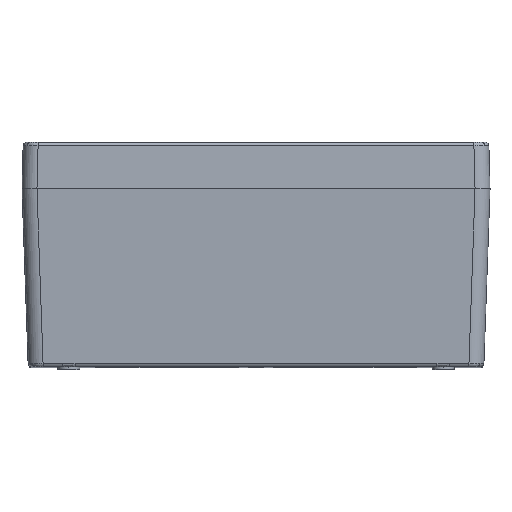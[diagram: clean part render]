
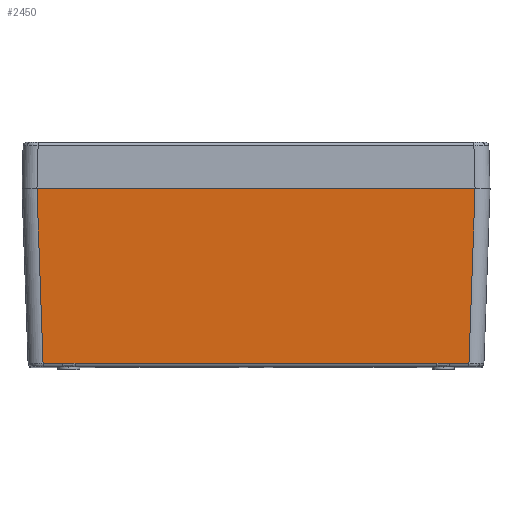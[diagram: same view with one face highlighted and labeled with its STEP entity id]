
A CAD part, top view. The second image highlights one B-rep face of the part: STEP entity #2450.
In plain terms, the highlighted planar face has unit normal (0, -0.035, 0.999).
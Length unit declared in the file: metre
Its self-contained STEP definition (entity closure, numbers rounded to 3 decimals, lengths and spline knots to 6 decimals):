
#311 = ORIENTED_EDGE ( 'NONE', *, *, #2430, .T. ) ;
#387 = CARTESIAN_POINT ( 'NONE',  ( -0.125, -0.09307, 0.12425 ) ) ;
#494 = CARTESIAN_POINT ( 'NONE',  ( 0.09889, -0.093302, 0.124242 ) ) ;
#496 = ORIENTED_EDGE ( 'NONE', *, *, #16359, .T. ) ;
#881 = CARTESIAN_POINT ( 'NONE',  ( -0.096673, -0.09307, 0.12425 ) ) ;
#978 = ORIENTED_EDGE ( 'NONE', *, *, #14404, .T. ) ;
#1494 = CARTESIAN_POINT ( 'NONE',  ( 0.096673, -0.09307, 0.12425 ) ) ;
#1507 = CARTESIAN_POINT ( 'NONE',  ( -0.125, -0.09307, 0.12425 ) ) ;
#1570 = CARTESIAN_POINT ( 'NONE',  ( -0.125, 0., 0.1275 ) ) ;
#1880 = CARTESIAN_POINT ( 'NONE',  ( 0.09972, -0.093373, 0.124239 ) ) ;
#2209 = CARTESIAN_POINT ( 'NONE',  ( -0.102217, -0.093147, 0.124247 ) ) ;
#2216 = DIRECTION ( 'NONE',  ( 0.035, 0.999, 0.035 ) ) ;
#2395 = CARTESIAN_POINT ( 'NONE',  ( -0.113755, -0.09307, 0.12425 ) ) ;
#2430 = EDGE_CURVE ( 'NONE', #4702, #15711, #2875, .T. ) ;
#2450 = ADVANCED_FACE ( 'NONE', ( #6085 ), #15189, .T. ) ;
#2875 = LINE ( 'NONE', #1507, #16071 ) ;
#3058 = EDGE_CURVE ( 'NONE', #6464, #4796, #9708, .T. ) ;
#3106 = EDGE_CURVE ( 'NONE', #6182, #4796, #16491, .T. ) ;
#3245 = CARTESIAN_POINT ( 'NONE',  ( 0.100551, -0.093357, 0.12424 ) ) ;
#3457 = CARTESIAN_POINT ( 'NONE',  ( -0.103327, -0.09307, 0.12425 ) ) ;
#3574 = CARTESIAN_POINT ( 'NONE',  ( -0.10111, -0.093302, 0.124242 ) ) ;
#3633 = VECTOR ( 'NONE', #15921, 1. ) ;
#3881 = VECTOR ( 'NONE', #13721, 1. ) ;
#4357 = EDGE_CURVE ( 'NONE', #6182, #4702, #11157, .T. ) ;
#4497 = LINE ( 'NONE', #11835, #3633 ) ;
#4615 = CARTESIAN_POINT ( 'NONE',  ( 0.101382, -0.093264, 0.124243 ) ) ;
#4702 = VERTEX_POINT ( 'NONE', #2395 ) ;
#4796 = VERTEX_POINT ( 'NONE', #14945 ) ;
#4943 = CARTESIAN_POINT ( 'NONE',  ( -0.10028, -0.093373, 0.124239 ) ) ;
#5021 = CARTESIAN_POINT ( 'NONE',  ( -0.125, 0., 0.1275 ) ) ;
#5800 = CARTESIAN_POINT ( 'NONE',  ( -0.096673, -0.09307, 0.12425 ) ) ;
#6012 = CARTESIAN_POINT ( 'NONE',  ( 0.102767, -0.09307, 0.12425 ) ) ;
#6085 = FACE_OUTER_BOUND ( 'NONE', #12398, .T. ) ;
#6182 = VERTEX_POINT ( 'NONE', #7645 ) ;
#6347 = CARTESIAN_POINT ( 'NONE',  ( -0.099449, -0.093357, 0.12424 ) ) ;
#6464 = VERTEX_POINT ( 'NONE', #8360 ) ;
#6504 = VECTOR ( 'NONE', #2216, 1. ) ;
#6950 = EDGE_CURVE ( 'NONE', #14768, #6464, #13873, .T. ) ;
#6971 = ORIENTED_EDGE ( 'NONE', *, *, #4357, .T. ) ;
#7003 = ORIENTED_EDGE ( 'NONE', *, *, #11595, .T. ) ;
#7342 = CARTESIAN_POINT ( 'NONE',  ( 0.097231, -0.09307, 0.12425 ) ) ;
#7499 = ORIENTED_EDGE ( 'NONE', *, *, #3058, .T. ) ;
#7645 = CARTESIAN_POINT ( 'NONE',  ( -0.117005, 0., 0.1275 ) ) ;
#7716 = CARTESIAN_POINT ( 'NONE',  ( -0.098618, -0.093264, 0.124243 ) ) ;
#8360 = CARTESIAN_POINT ( 'NONE',  ( 0.113755, -0.09307, 0.12425 ) ) ;
#8443 = DIRECTION ( 'NONE',  ( 0., -0.999, -0.035 ) ) ;
#8693 = CARTESIAN_POINT ( 'NONE',  ( 0.098613, -0.093263, 0.124243 ) ) ;
#9026 = CARTESIAN_POINT ( 'NONE',  ( -0.102769, -0.09307, 0.12425 ) ) ;
#9087 = CARTESIAN_POINT ( 'NONE',  ( -0.097233, -0.09307, 0.12425 ) ) ;
#9708 = LINE ( 'NONE', #11771, #6504 ) ;
#9958 = DIRECTION ( 'NONE',  ( 1., 0., 0. ) ) ;
#10070 = CARTESIAN_POINT ( 'NONE',  ( 0.099443, -0.093357, 0.12424 ) ) ;
#10326 = B_SPLINE_CURVE_WITH_KNOTS ( 'NONE', 3,
 ( #16819, #7342, #12731, #8693, #494, #10070, #1880, #11424, #3245, #12788, #4615, #14132, #6012, #15502 ),
 .UNSPECIFIED., .F., .F.,
 ( 4, 2, 2, 2, 2, 2, 4 ),
 ( 0., 0.001669, 0.002504, 0.003338, 0.004173, 0.005008, 0.006677 ),
 .UNSPECIFIED. ) ;
#10351 = ORIENTED_EDGE ( 'NONE', *, *, #3106, .F. ) ;
#10980 = CARTESIAN_POINT ( 'NONE',  ( -0.103327, -0.09307, 0.12425 ) ) ;
#11072 = CARTESIAN_POINT ( 'NONE',  ( -0.117015, 0.000279, 0.12751 ) ) ;
#11121 = B_SPLINE_CURVE_WITH_KNOTS ( 'NONE', 3,
 ( #3457, #9026, #2209, #11758, #3574, #13118, #4943, #14460, #6347, #15842, #7716, #17197, #9087, #881 ),
 .UNSPECIFIED., .F., .F.,
 ( 4, 2, 2, 2, 2, 2, 4 ),
 ( 0., 0.001669, 0.002504, 0.003338, 0.004173, 0.005008, 0.006677 ),
 .UNSPECIFIED. ) ;
#11157 = LINE ( 'NONE', #11072, #3881 ) ;
#11424 = CARTESIAN_POINT ( 'NONE',  ( 0.100274, -0.093374, 0.124239 ) ) ;
#11595 = EDGE_CURVE ( 'NONE', #16575, #14768, #10326, .T. ) ;
#11758 = CARTESIAN_POINT ( 'NONE',  ( -0.101387, -0.093263, 0.124243 ) ) ;
#11771 = CARTESIAN_POINT ( 'NONE',  ( 0.11671, -0.00843, 0.127206 ) ) ;
#11835 = CARTESIAN_POINT ( 'NONE',  ( -0.125, -0.09307, 0.12425 ) ) ;
#12398 = EDGE_LOOP ( 'NONE', ( #6971, #311, #496, #978, #7003, #14045, #7499, #10351 ) ) ;
#12429 = DIRECTION ( 'NONE',  ( 1., 0., 0. ) ) ;
#12465 = VECTOR ( 'NONE', #14534, 1. ) ;
#12731 = CARTESIAN_POINT ( 'NONE',  ( 0.097783, -0.093147, 0.124247 ) ) ;
#12788 = CARTESIAN_POINT ( 'NONE',  ( 0.101105, -0.093302, 0.124242 ) ) ;
#13118 = CARTESIAN_POINT ( 'NONE',  ( -0.100557, -0.093357, 0.12424 ) ) ;
#13323 = AXIS2_PLACEMENT_3D ( 'NONE', #1570, #16574, #8443 ) ;
#13721 = DIRECTION ( 'NONE',  ( 0.035, -0.999, -0.035 ) ) ;
#13873 = LINE ( 'NONE', #387, #17464 ) ;
#14045 = ORIENTED_EDGE ( 'NONE', *, *, #6950, .T. ) ;
#14132 = CARTESIAN_POINT ( 'NONE',  ( 0.102213, -0.093147, 0.124247 ) ) ;
#14404 = EDGE_CURVE ( 'NONE', #16695, #16575, #4497, .T. ) ;
#14460 = CARTESIAN_POINT ( 'NONE',  ( -0.099726, -0.093374, 0.124239 ) ) ;
#14534 = DIRECTION ( 'NONE',  ( 1., 0., 0. ) ) ;
#14768 = VERTEX_POINT ( 'NONE', #15790 ) ;
#14945 = CARTESIAN_POINT ( 'NONE',  ( 0.117005, 0., 0.1275 ) ) ;
#15189 = PLANE ( 'NONE',  #13323 ) ;
#15502 = CARTESIAN_POINT ( 'NONE',  ( 0.103327, -0.09307, 0.12425 ) ) ;
#15711 = VERTEX_POINT ( 'NONE', #10980 ) ;
#15790 = CARTESIAN_POINT ( 'NONE',  ( 0.103327, -0.09307, 0.12425 ) ) ;
#15842 = CARTESIAN_POINT ( 'NONE',  ( -0.098895, -0.093302, 0.124242 ) ) ;
#15921 = DIRECTION ( 'NONE',  ( 1., 0., 0. ) ) ;
#16071 = VECTOR ( 'NONE', #12429, 1. ) ;
#16359 = EDGE_CURVE ( 'NONE', #15711, #16695, #11121, .T. ) ;
#16491 = LINE ( 'NONE', #5021, #12465 ) ;
#16574 = DIRECTION ( 'NONE',  ( 0., -0.035, 0.999 ) ) ;
#16575 = VERTEX_POINT ( 'NONE', #1494 ) ;
#16695 = VERTEX_POINT ( 'NONE', #5800 ) ;
#16819 = CARTESIAN_POINT ( 'NONE',  ( 0.096673, -0.09307, 0.12425 ) ) ;
#17197 = CARTESIAN_POINT ( 'NONE',  ( -0.097787, -0.093147, 0.124247 ) ) ;
#17464 = VECTOR ( 'NONE', #9958, 1. ) ;
